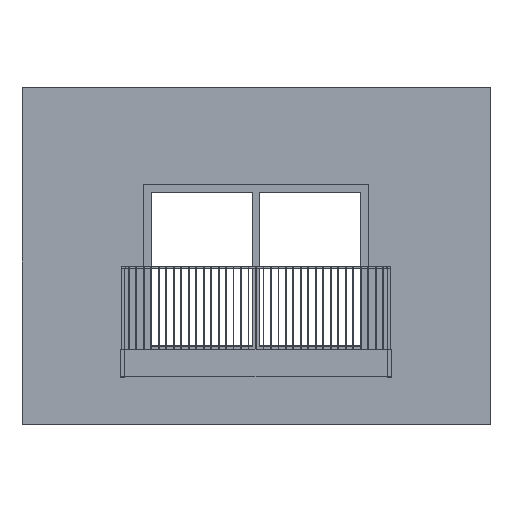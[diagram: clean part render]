
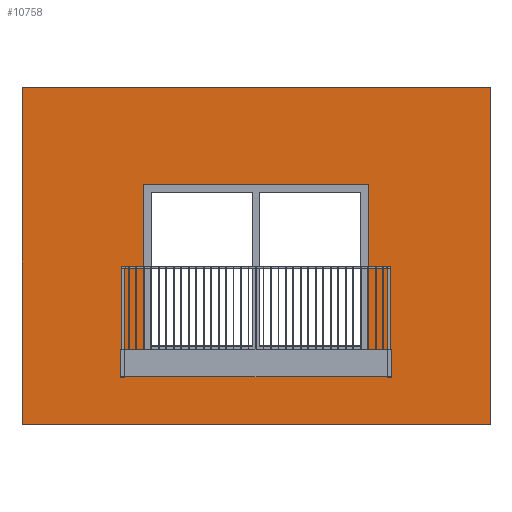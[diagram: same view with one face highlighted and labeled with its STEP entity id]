
A CAD part, top view. The second image highlights one B-rep face of the part: STEP entity #10758.
In plain terms, the highlighted planar face has unit normal (0, 0, 1).
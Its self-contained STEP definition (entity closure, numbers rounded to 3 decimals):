
#617=FACE_BOUND('',#1616,.T.);
#1084=FACE_OUTER_BOUND('',#1615,.T.);
#1615=EDGE_LOOP('',(#9481,#9482,#9483,#9484));
#1616=EDGE_LOOP('',(#9485,#9486,#9487,#9488));
#2894=LINE('',#17184,#4280);
#2897=LINE('',#17189,#4283);
#2909=LINE('',#17215,#4295);
#2912=LINE('',#17220,#4298);
#2914=LINE('',#17224,#4300);
#2915=LINE('',#17226,#4301);
#2916=LINE('',#17229,#4302);
#2918=LINE('',#17232,#4304);
#4280=VECTOR('',#14084,10.);
#4283=VECTOR('',#14089,10.);
#4295=VECTOR('',#14113,10.);
#4298=VECTOR('',#14118,10.);
#4300=VECTOR('',#14122,10.);
#4301=VECTOR('',#14125,10.);
#4302=VECTOR('',#14128,10.);
#4304=VECTOR('',#14132,10.);
#5317=VERTEX_POINT('',#17181);
#5318=VERTEX_POINT('',#17183);
#5319=VERTEX_POINT('',#17187);
#5326=VERTEX_POINT('',#17212);
#5327=VERTEX_POINT('',#17214);
#5328=VERTEX_POINT('',#17218);
#5329=VERTEX_POINT('',#17222);
#5330=VERTEX_POINT('',#17228);
#6710=EDGE_CURVE('',#5318,#5317,#2894,.T.);
#6713=EDGE_CURVE('',#5317,#5319,#2897,.T.);
#6725=EDGE_CURVE('',#5327,#5326,#2909,.T.);
#6728=EDGE_CURVE('',#5326,#5328,#2912,.T.);
#6730=EDGE_CURVE('',#5328,#5329,#2914,.T.);
#6731=EDGE_CURVE('',#5329,#5327,#2915,.T.);
#6732=EDGE_CURVE('',#5330,#5318,#2916,.T.);
#6734=EDGE_CURVE('',#5319,#5330,#2918,.T.);
#9481=ORIENTED_EDGE('',*,*,#6713,.T.);
#9482=ORIENTED_EDGE('',*,*,#6734,.T.);
#9483=ORIENTED_EDGE('',*,*,#6732,.T.);
#9484=ORIENTED_EDGE('',*,*,#6710,.T.);
#9485=ORIENTED_EDGE('',*,*,#6730,.T.);
#9486=ORIENTED_EDGE('',*,*,#6731,.T.);
#9487=ORIENTED_EDGE('',*,*,#6725,.T.);
#9488=ORIENTED_EDGE('',*,*,#6728,.T.);
#10233=PLANE('',#11674);
#10758=ADVANCED_FACE('',(#1084,#617),#10233,.T.);
#11674=AXIS2_PLACEMENT_3D('',#17233,#14133,#14134);
#14084=DIRECTION('',(0.,-1.,0.));
#14089=DIRECTION('',(1.,0.,0.));
#14113=DIRECTION('',(0.,1.,0.));
#14118=DIRECTION('',(1.,0.,0.));
#14122=DIRECTION('',(0.,-1.,0.));
#14125=DIRECTION('',(-1.,0.,0.));
#14128=DIRECTION('',(-1.,0.,0.));
#14132=DIRECTION('',(0.,1.,0.));
#14133=DIRECTION('center_axis',(0.,0.,1.));
#14134=DIRECTION('ref_axis',(1.,0.,0.));
#17181=CARTESIAN_POINT('',(0.,0.,250.));
#17183=CARTESIAN_POINT('',(0.,4500.,250.));
#17184=CARTESIAN_POINT('',(0.,4500.,250.));
#17187=CARTESIAN_POINT('',(6250.,0.,250.));
#17189=CARTESIAN_POINT('',(0.,0.,250.));
#17212=CARTESIAN_POINT('',(1625.,3200.,250.));
#17214=CARTESIAN_POINT('',(1625.,1000.,250.));
#17215=CARTESIAN_POINT('',(1625.,2725.,250.));
#17218=CARTESIAN_POINT('',(4625.,3200.,250.));
#17220=CARTESIAN_POINT('',(3875.,3200.,250.));
#17222=CARTESIAN_POINT('',(4625.,1000.,250.));
#17224=CARTESIAN_POINT('',(4625.,1625.,250.));
#17226=CARTESIAN_POINT('',(2375.,1000.,250.));
#17228=CARTESIAN_POINT('',(6250.,4500.,250.));
#17229=CARTESIAN_POINT('',(6250.,4500.,250.));
#17232=CARTESIAN_POINT('',(6250.,0.,250.));
#17233=CARTESIAN_POINT('Origin',(3125.,2250.,250.));
